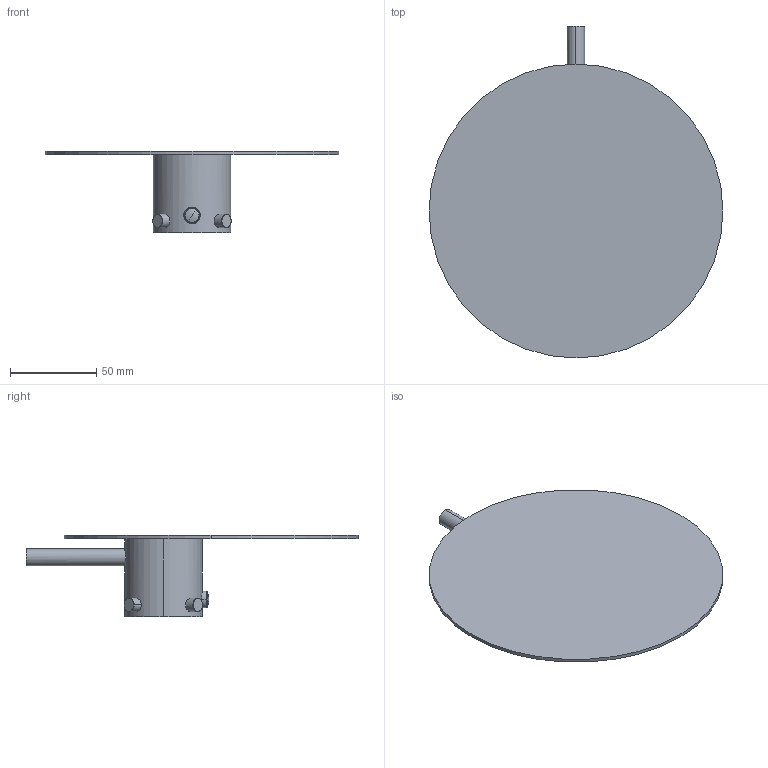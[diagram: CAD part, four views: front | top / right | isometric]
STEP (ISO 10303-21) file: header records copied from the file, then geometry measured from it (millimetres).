
FILE_DESCRIPTION (( 'STEP AP214' ), '1' );
FILE_NAME ('13225910 x architetti.STEP', '2024-09-25T07:38:18', ( '' ), ( '' ), 'SwSTEP 2.0', 'SolidWorks 2020', '' );
FILE_SCHEMA (( 'AUTOMOTIVE_DESIGN' ));
Length unit declared in the file: millimetre
Products named in the file (1): 13225910 x architetti
Bounding box: 170 x 192 x 47.1 mm (x, y, z)
Volume: 122061 mm3; surface area: 56435.1 mm2
Topology: 1 solids, 7 shells, 80 faces, 178 edges, 106 vertices
Faces by surface type: cylinder 42, plane 14, torus 10, cone 10, bspline 4
Entity records: 3683 total; most frequent: CARTESIAN_POINT 1190, DIRECTION 356, ORIENTED_EDGE 332, EDGE_CURVE 166, AXIS2_PLACEMENT_3D 150, VERTEX_POINT 106, EDGE_LOOP 90, FACE_OUTER_BOUND 80
